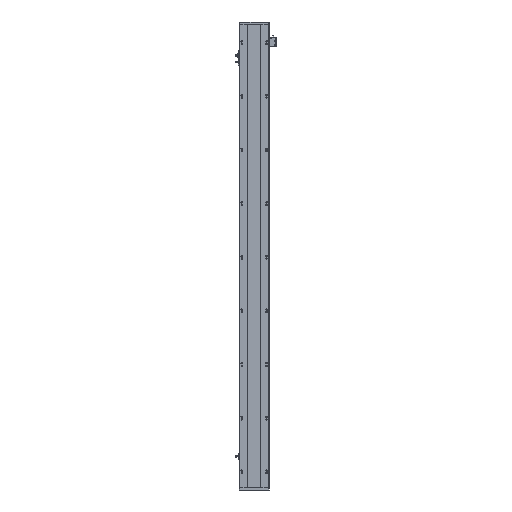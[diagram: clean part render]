
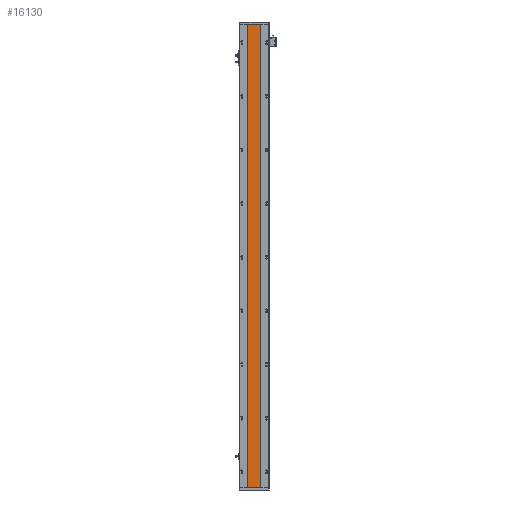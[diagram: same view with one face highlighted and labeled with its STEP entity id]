
A CAD part, front view. The second image highlights one B-rep face of the part: STEP entity #16130.
In plain terms, the highlighted planar face has unit normal (0, -1, 0).
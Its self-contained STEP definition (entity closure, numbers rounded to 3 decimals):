
#1147 = CARTESIAN_POINT ( 'NONE',  ( 0., 115.96, 1864. ) ) ;
#1916 = ORIENTED_EDGE ( 'NONE', *, *, #23319, .T. ) ;
#2885 = FACE_OUTER_BOUND ( 'NONE', #5447, .T. ) ;
#3873 = CARTESIAN_POINT ( 'NONE',  ( 133.07, 115.96, 1864. ) ) ;
#4468 = VECTOR ( 'NONE', #8346, 1000. ) ;
#5389 = CARTESIAN_POINT ( 'NONE',  ( 183.063, 115.96, 1864. ) ) ;
#5447 = EDGE_LOOP ( 'NONE', ( #9600, #28726, #28892, #1916 ) ) ;
#5625 = CARTESIAN_POINT ( 'NONE',  ( 0., 115.96, 1864. ) ) ;
#7157 = CARTESIAN_POINT ( 'NONE',  ( 133.07, 115.96, 0. ) ) ;
#7412 = DIRECTION ( 'NONE',  ( 1., 0., 0. ) ) ;
#7910 = DIRECTION ( 'NONE',  ( 0., 1., 0. ) ) ;
#8346 = DIRECTION ( 'NONE',  ( 0., 0., -1. ) ) ;
#8610 = VECTOR ( 'NONE', #17147, 1000. ) ;
#9117 = LINE ( 'NONE', #3873, #4468 ) ;
#9600 = ORIENTED_EDGE ( 'NONE', *, *, #18079, .T. ) ;
#9627 = CARTESIAN_POINT ( 'NONE',  ( 133.07, 115.96, 1864. ) ) ;
#16108 = EDGE_CURVE ( 'NONE', #27447, #25894, #22937, .T. ) ;
#16130 = ADVANCED_FACE ( 'NONE', ( #2885 ), #24146, .F. ) ;
#16504 = LINE ( 'NONE', #5389, #8610 ) ;
#17147 = DIRECTION ( 'NONE',  ( 0., 0., -1. ) ) ;
#18079 = EDGE_CURVE ( 'NONE', #26336, #28816, #26801, .T. ) ;
#20721 = VECTOR ( 'NONE', #7412, 1000. ) ;
#21047 = CARTESIAN_POINT ( 'NONE',  ( 0., 115.96, 0. ) ) ;
#21487 = VECTOR ( 'NONE', #26618, 1000. ) ;
#22937 = LINE ( 'NONE', #5625, #21487 ) ;
#23319 = EDGE_CURVE ( 'NONE', #27447, #26336, #9117, .T. ) ;
#23740 = CARTESIAN_POINT ( 'NONE',  ( 183.063, 115.96, 1864. ) ) ;
#24146 = PLANE ( 'NONE',  #29365 ) ;
#24225 = CARTESIAN_POINT ( 'NONE',  ( 183.063, 115.96, 0. ) ) ;
#25894 = VERTEX_POINT ( 'NONE', #23740 ) ;
#25976 = EDGE_CURVE ( 'NONE', #25894, #28816, #16504, .T. ) ;
#26336 = VERTEX_POINT ( 'NONE', #7157 ) ;
#26436 = DIRECTION ( 'NONE',  ( -1., 0., 0. ) ) ;
#26618 = DIRECTION ( 'NONE',  ( 1., 0., 0. ) ) ;
#26801 = LINE ( 'NONE', #21047, #20721 ) ;
#27447 = VERTEX_POINT ( 'NONE', #9627 ) ;
#28726 = ORIENTED_EDGE ( 'NONE', *, *, #25976, .F. ) ;
#28816 = VERTEX_POINT ( 'NONE', #24225 ) ;
#28892 = ORIENTED_EDGE ( 'NONE', *, *, #16108, .F. ) ;
#29365 = AXIS2_PLACEMENT_3D ( 'NONE', #1147, #7910, #26436 ) ;
